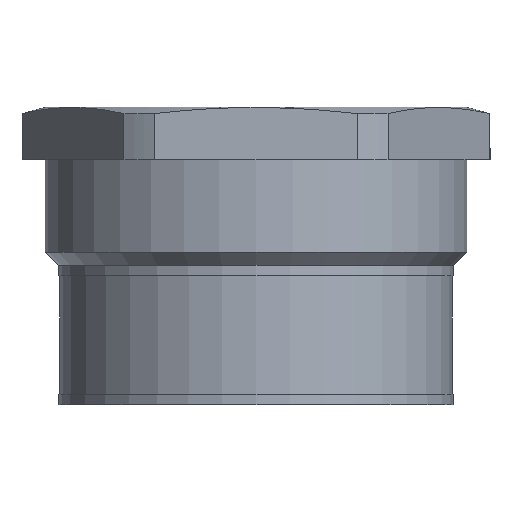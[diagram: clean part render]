
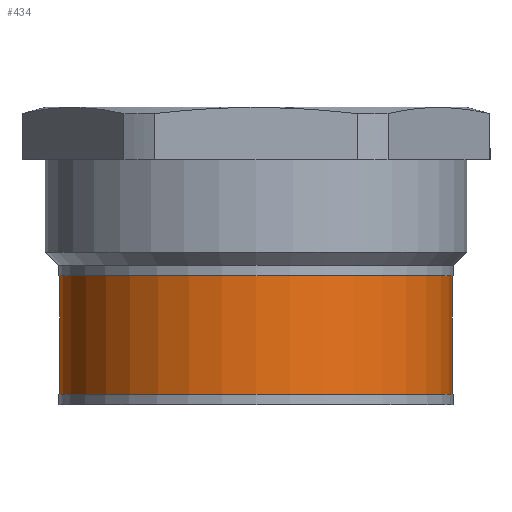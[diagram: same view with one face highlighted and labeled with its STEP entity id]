
A CAD part, left-side view. The second image highlights one B-rep face of the part: STEP entity #434.
In plain terms, the highlighted cylindrical face has radius 14.9 mm (diameter 29.8 mm), a partial arc.
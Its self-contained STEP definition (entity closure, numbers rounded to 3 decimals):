
#143 = EDGE_CURVE ( 'NONE', #158, #203, #1404, .T. ) ;
#158 = VERTEX_POINT ( 'NONE', #1434 ) ;
#160 = VERTEX_POINT ( 'NONE', #1493 ) ;
#203 = VERTEX_POINT ( 'NONE', #1546 ) ;
#211 = EDGE_CURVE ( 'NONE', #160, #265, #1532, .T. ) ;
#265 = VERTEX_POINT ( 'NONE', #1663 ) ;
#434 = ADVANCED_FACE ( 'NONE', ( #1964 ), #2031, .T. ) ;
#435 = EDGE_LOOP ( 'NONE', ( #436, #437, #438, #439 ) ) ;
#436 = ORIENTED_EDGE ( 'NONE', *, *, #143, .F. ) ;
#437 = ORIENTED_EDGE ( 'NONE', *, *, #456, .T. ) ;
#438 = ORIENTED_EDGE ( 'NONE', *, *, #211, .T. ) ;
#439 = ORIENTED_EDGE ( 'NONE', *, *, #440, .F. ) ;
#440 = EDGE_CURVE ( 'NONE', #203, #265, #2030, .T. ) ;
#456 = EDGE_CURVE ( 'NONE', #158, #160, #2063, .T. ) ;
#1401 = DIRECTION ( 'NONE',  ( 0., 0., 1. ) ) ;
#1402 = VECTOR ( 'NONE', #1401, 1000. ) ;
#1403 = CARTESIAN_POINT ( 'NONE',  ( 0., 14.9, 0. ) ) ;
#1404 = LINE ( 'NONE', #1403, #1402 ) ;
#1434 = CARTESIAN_POINT ( 'NONE',  ( 0., 14.9, -21.8 ) ) ;
#1493 = CARTESIAN_POINT ( 'NONE',  ( 0., -14.9, -21.8 ) ) ;
#1529 = DIRECTION ( 'NONE',  ( 0., 0., 1. ) ) ;
#1530 = VECTOR ( 'NONE', #1529, 1000. ) ;
#1531 = CARTESIAN_POINT ( 'NONE',  ( 0., -14.9, 0. ) ) ;
#1532 = LINE ( 'NONE', #1531, #1530 ) ;
#1546 = CARTESIAN_POINT ( 'NONE',  ( 0., 14.9, -12.8 ) ) ;
#1663 = CARTESIAN_POINT ( 'NONE',  ( 0., -14.9, -12.8 ) ) ;
#1964 = FACE_OUTER_BOUND ( 'NONE', #435, .T. ) ;
#2022 = DIRECTION ( 'NONE',  ( 0., -1., 0. ) ) ;
#2023 = DIRECTION ( 'NONE',  ( 0., 0., 1. ) ) ;
#2024 = CARTESIAN_POINT ( 'NONE',  ( 0., 0., -12.8 ) ) ;
#2025 = AXIS2_PLACEMENT_3D ( 'NONE', #2024, #2023, #2022 ) ;
#2026 = DIRECTION ( 'NONE',  ( 0., -1., 0. ) ) ;
#2027 = DIRECTION ( 'NONE',  ( 0., 0., 1. ) ) ;
#2028 = CARTESIAN_POINT ( 'NONE',  ( 0., 0., 0. ) ) ;
#2029 = AXIS2_PLACEMENT_3D ( 'NONE', #2028, #2027, #2026 ) ;
#2030 = CIRCLE ( 'NONE', #2025, 14.9 ) ;
#2031 = CYLINDRICAL_SURFACE ( 'NONE', #2029, 14.9 ) ;
#2059 = DIRECTION ( 'NONE',  ( 0., -1., 0. ) ) ;
#2060 = DIRECTION ( 'NONE',  ( 0., 0., 1. ) ) ;
#2061 = CARTESIAN_POINT ( 'NONE',  ( 0., 0., -21.8 ) ) ;
#2062 = AXIS2_PLACEMENT_3D ( 'NONE', #2061, #2060, #2059 ) ;
#2063 = CIRCLE ( 'NONE', #2062, 14.9 ) ;
